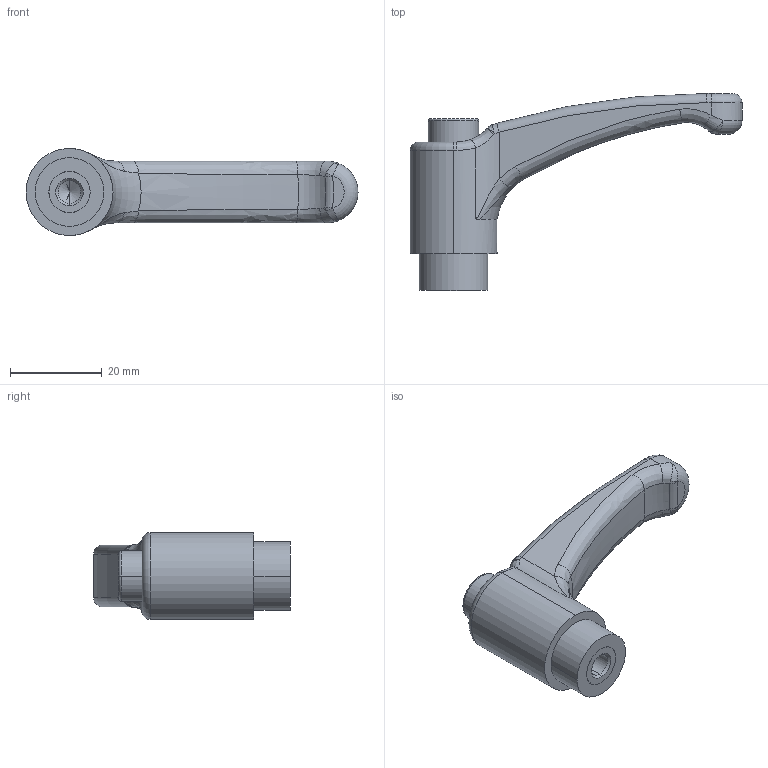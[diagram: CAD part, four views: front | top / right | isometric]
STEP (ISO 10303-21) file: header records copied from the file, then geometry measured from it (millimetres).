
FILE_DESCRIPTION (( 'STEP AP214' ), '1' );
FILE_NAME ('603.1-63-M6-DRT.step', '2020-08-21T08:25:25', ( '' ), ( '' ), 'SwSTEP 2.0', 'SolidWorks 2019', '' );
FILE_SCHEMA (( 'AUTOMOTIVE_DESIGN' ));
Length unit declared in the file: millimetre
Products named in the file (1): 603.1-63-M6-DRT
Bounding box: 72.5 x 43 x 19 mm (x, y, z)
Volume: 15315 mm3; surface area: 5168.9 mm2
Topology: 1 solids, 1 shells, 74 faces, 170 edges, 97 vertices
Faces by surface type: bspline 24, cylinder 22, torus 13, plane 11, cone 4
Entity records: 3081 total; most frequent: CARTESIAN_POINT 1373, ORIENTED_EDGE 328, DIRECTION 295, EDGE_CURVE 164, AXIS2_PLACEMENT_3D 131, VERTEX_POINT 97, CIRCLE 80, EDGE_LOOP 79
